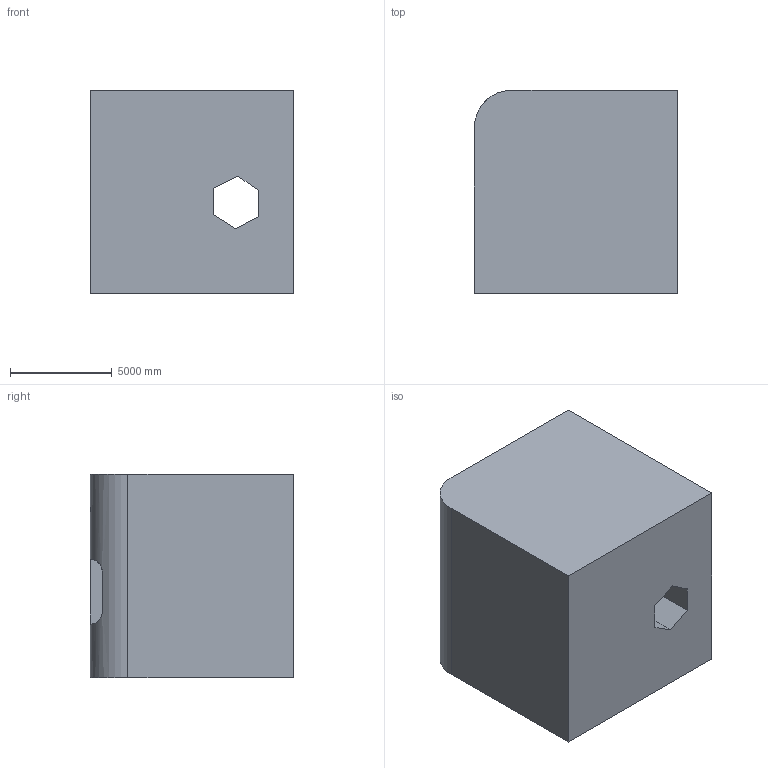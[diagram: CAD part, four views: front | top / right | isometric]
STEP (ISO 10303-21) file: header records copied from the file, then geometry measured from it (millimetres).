
FILE_DESCRIPTION (( 'STEP AP203' ), '1' );
FILE_NAME ('1650.STEP', '2022-08-25T15:20:54', ( 'user' ), ( '' ), 'SwSTEP 2.0', 'SolidWorks 2021', '' );
FILE_SCHEMA (( 'CONFIG_CONTROL_DESIGN' ));
Length unit declared in the file: centimetre
Products named in the file (1): 1650
Bounding box: 10000 x 10000 x 10000 mm (x, y, z)
Volume: 890755104951.7 mm3; surface area: 797003219.1 mm2
Topology: 1 solids, 1 shells, 36 faces, 90 edges, 60 vertices
Faces by surface type: plane 29, cylinder 7
Entity records: 1311 total; most frequent: CARTESIAN_POINT 361, ORIENTED_EDGE 180, DIRECTION 172, EDGE_CURVE 90, VECTOR 74, LINE 74, VERTEX_POINT 60, AXIS2_PLACEMENT_3D 49
